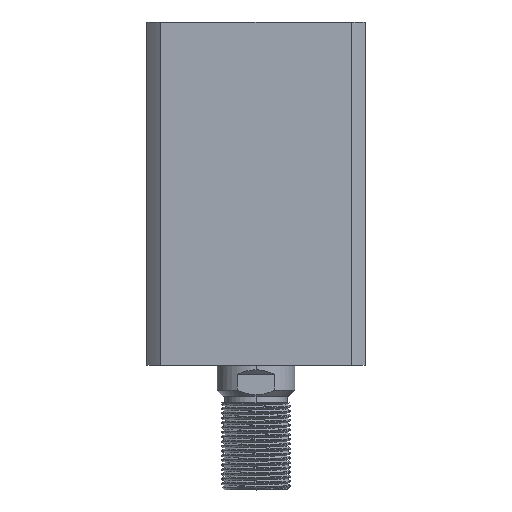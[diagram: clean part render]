
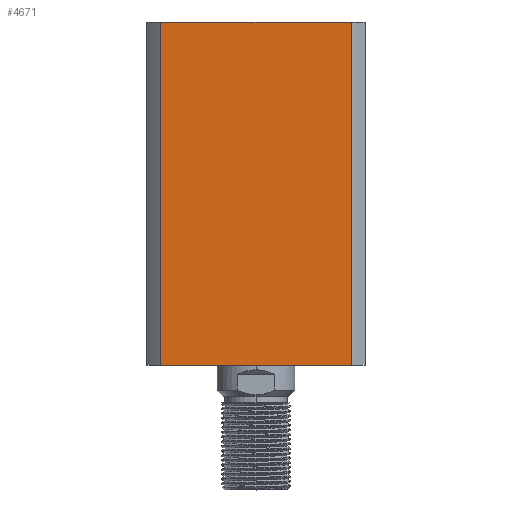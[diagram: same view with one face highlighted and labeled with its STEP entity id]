
A CAD part, top view. The second image highlights one B-rep face of the part: STEP entity #4671.
In plain terms, the highlighted planar face has unit normal (0, 0, 1) as drawn and (1, 0, 0) by its records, which use the part's own axes.
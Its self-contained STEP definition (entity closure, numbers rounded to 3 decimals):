
#403 = DIRECTION ( 'NONE',  ( 0., 0., 1. ) ) ;
#538 = ORIENTED_EDGE ( 'NONE', *, *, #4150, .F. ) ;
#857 = CARTESIAN_POINT ( 'NONE',  ( 35., -30.615, 110. ) ) ;
#2007 = CARTESIAN_POINT ( 'NONE',  ( 35., -30.615, 0. ) ) ;
#2136 = CARTESIAN_POINT ( 'NONE',  ( 35., 35., 110. ) ) ;
#2409 = CARTESIAN_POINT ( 'NONE',  ( 35., 30.615, 300. ) ) ;
#2493 = VECTOR ( 'NONE', #12270, 1000. ) ;
#2988 = ORIENTED_EDGE ( 'NONE', *, *, #13140, .F. ) ;
#3259 = VECTOR ( 'NONE', #8427, 1000. ) ;
#3326 = VERTEX_POINT ( 'NONE', #857 ) ;
#3395 = LINE ( 'NONE', #13384, #8674 ) ;
#3871 = CARTESIAN_POINT ( 'NONE',  ( 35., 35., 0. ) ) ;
#4150 = EDGE_CURVE ( 'NONE', #11509, #4293, #12521, .T. ) ;
#4232 = LINE ( 'NONE', #2136, #3259 ) ;
#4293 = VERTEX_POINT ( 'NONE', #12546 ) ;
#4671 = ADVANCED_FACE ( 'NONE', ( #9582 ), #8766, .F. ) ;
#5624 = EDGE_CURVE ( 'NONE', #6619, #4293, #8429, .T. ) ;
#6082 = DIRECTION ( 'NONE',  ( 0., 0., 1. ) ) ;
#6374 = ORIENTED_EDGE ( 'NONE', *, *, #8851, .F. ) ;
#6619 = VERTEX_POINT ( 'NONE', #2007 ) ;
#6689 = DIRECTION ( 'NONE',  ( -1., 0., 0. ) ) ;
#8237 = ORIENTED_EDGE ( 'NONE', *, *, #5624, .T. ) ;
#8427 = DIRECTION ( 'NONE',  ( 0., 1., 0. ) ) ;
#8429 = LINE ( 'NONE', #3871, #2493 ) ;
#8674 = VECTOR ( 'NONE', #6082, 1000. ) ;
#8727 = DIRECTION ( 'NONE',  ( 0., 0., -1. ) ) ;
#8766 = PLANE ( 'NONE',  #9028 ) ;
#8851 = EDGE_CURVE ( 'NONE', #3326, #11509, #4232, .T. ) ;
#9028 = AXIS2_PLACEMENT_3D ( 'NONE', #12951, #6689, #403 ) ;
#9390 = EDGE_LOOP ( 'NONE', ( #538, #6374, #2988, #8237 ) ) ;
#9582 = FACE_OUTER_BOUND ( 'NONE', #9390, .T. ) ;
#9755 = VECTOR ( 'NONE', #8727, 1000. ) ;
#11509 = VERTEX_POINT ( 'NONE', #13074 ) ;
#12270 = DIRECTION ( 'NONE',  ( 0., 1., 0. ) ) ;
#12521 = LINE ( 'NONE', #2409, #9755 ) ;
#12546 = CARTESIAN_POINT ( 'NONE',  ( 35., 30.615, 0. ) ) ;
#12951 = CARTESIAN_POINT ( 'NONE',  ( 35., 35., 110. ) ) ;
#13074 = CARTESIAN_POINT ( 'NONE',  ( 35., 30.615, 110. ) ) ;
#13140 = EDGE_CURVE ( 'NONE', #6619, #3326, #3395, .T. ) ;
#13384 = CARTESIAN_POINT ( 'NONE',  ( 35., -30.615, 300. ) ) ;
